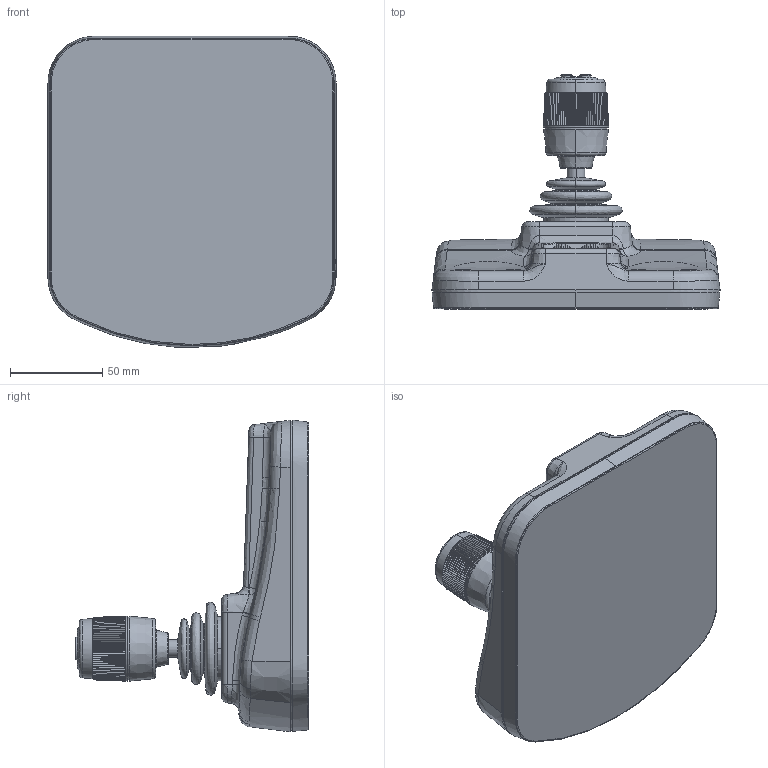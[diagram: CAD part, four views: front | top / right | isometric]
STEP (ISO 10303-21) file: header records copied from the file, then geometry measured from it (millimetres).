
FILE_DESCRIPTION (( 'STEP AP214' ), '1' );
FILE_NAME ('MACHV.STEP', '2012-09-24T12:29:05', ( 'P700' ), ( 'Esprimo' ), 'SwSTEP 2.0', 'SolidWorks 2012', '' );
FILE_SCHEMA (( 'AUTOMOTIVE_DESIGN' ));
Length unit declared in the file: millimetre
Products named in the file (15): MACHV; Teil1; IPD-Standard-8; IPD-Standard-3; IPD-Standard-6; IPD-Standard-10; IPD-Standard-11; IPD-Standard-12; IPD-Standard-13; IPD-Standard-1; IPD-Standard-2; IPD-Standard-4; IPD-Standard-5; IPD-Standard-7; IPD-Standard-9
Assembly tree (14 placements, depth 2):
  MACHV
    Teil1
    IPD-Standard-1
    IPD-Standard-2
    IPD-Standard-3
    IPD-Standard-4
    IPD-Standard-5
    IPD-Standard-6
    IPD-Standard-7
    IPD-Standard-8
    IPD-Standard-9
    IPD-Standard-10
    IPD-Standard-11
    IPD-Standard-12
    IPD-Standard-13
Bounding box: 156.21 x 126.85 x 168.9 mm (x, y, z)
Volume: 234771.6 mm3; surface area: 158126.5 mm2
Topology: 14 solids, 14 shells, 904 faces, 2289 edges, 1400 vertices
Faces by surface type: plane 352, bspline 331, cone 129, cylinder 92
Entity records: 125591 total; most frequent: CARTESIAN_POINT 100183, ORIENTED_EDGE 4534, DIRECTION 2895, EDGE_CURVE 2267, VERTEX_POINT 1400, AXIS2_PLACEMENT_3D 1115, B_SPLINE_CURVE_WITH_KNOTS 953, EDGE_LOOP 943
